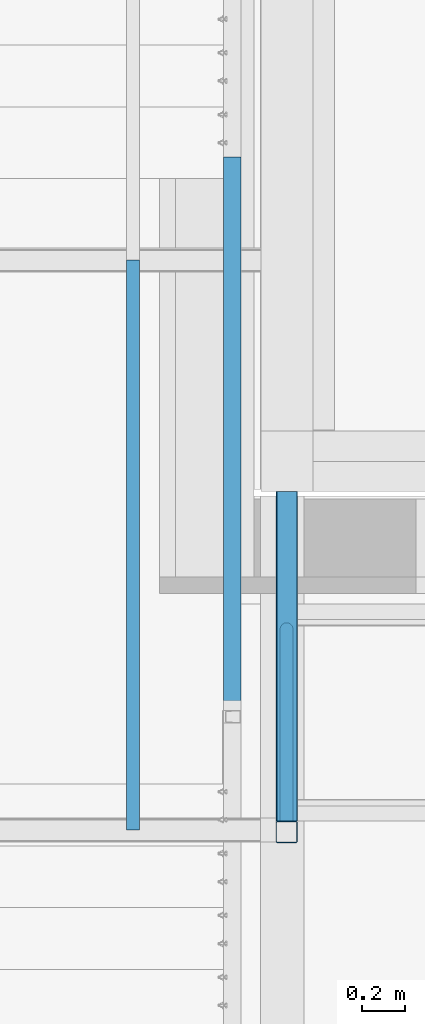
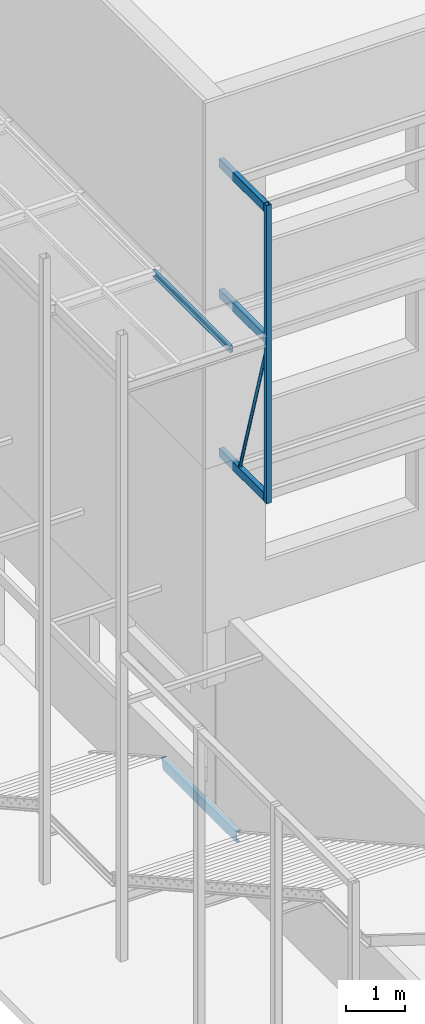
# One storey, part 20 of 78: 6 beams, 1 member, 3 elements without a shape of their own.
"""IFC2X3 building model written with IfcOpenShell, lengths in millimetres."""

from ifc_helpers import new_model, si_unit, frame, origin_with_axes, origin_2d_with_axis, place, context, subcontext, project, spatial, hollow_rectangle, hollow_circle, u_section, extrude, clip, halfspace, material, type_object, element, aggregate, save


model = new_model("IFC2X3")

# Units and contexts
model_context = context("Model", 3, precision=1e-05, world=origin_with_axes())
body_context = subcontext(model_context, "Body", "Model", "MODEL_VIEW")
ifc_project = project(units=[si_unit("LENGTHUNIT", "METRE", prefix="MILLI"), si_unit("AREAUNIT", "SQUARE_METRE"), si_unit("VOLUMEUNIT", "CUBIC_METRE"), si_unit("MASSUNIT", "GRAM", prefix="KILO"), si_unit("TIMEUNIT", "SECOND"), si_unit("PLANEANGLEUNIT", "RADIAN"), si_unit("SOLIDANGLEUNIT", "STERADIAN"), si_unit("THERMODYNAMICTEMPERATUREUNIT", "DEGREE_CELSIUS"), si_unit("LUMINOUSINTENSITYUNIT", "LUMEN")], contexts=[model_context])

# Site, building, storey
site_placement = place(None, origin_with_axes())
site = spatial("IfcSite", under=ifc_project, at=site_placement, Name="Site", CompositionType="ELEMENT")
building_placement = place(site_placement, origin_with_axes())
building = spatial("IfcBuilding", under=site, at=building_placement, Name="Undefined", CompositionType="ELEMENT")
storey_placement = place(building_placement, origin_with_axes())
storey = spatial("IfcBuildingStorey", under=building, at=storey_placement, Name="Undefined", CompositionType="ELEMENT", Elevation=0.0)

# Assembly, beam
assembly_1_placement = place(storey_placement, origin_with_axes())
assembly_1 = element("IfcElementAssembly", 1, at=assembly_1_placement, inside=storey, AssemblyPlace="NOTDEFINED", PredefinedType="RIGID_FRAME")
ifc_material_1 = material(Name="STEEL/S235JR")
beam_type_1 = type_object("IfcBeamType", Name="UPN220", PredefinedType="NOTDEFINED")
beam_1_placement = place(assembly_1_placement, frame((-30736.429999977, -8107.00405384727, 149285.040013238), z_axis=(0.0, 0.0, 1.0), x_axis=(0.0, 1.0, 0.0)))
beam_1 = element("IfcBeam", 2, at=beam_1_placement, type_object=beam_type_1, material=ifc_material_1, Name="LIMON", ObjectType="UPN220", context=body_context, shape_type="Clipping", body=[
    clip(extrude(u_section(Depth=220.0, FlangeWidth=80.0, WebThickness=9.0, FlangeThickness=12.5, FilletRadius=12.5, EdgeRadius=6.5, FlangeSlope=0.0798299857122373, at=origin_2d_with_axis()), frame((2554.05967197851, 0.0, 0.0), z_axis=(-1.0, 0.0, 0.0), x_axis=(0.0, -1.0, 0.0)), (0.0, 0.0, 1.0), 2554.06), halfspace(frame((2553.77358497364, -39.9999999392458, 109.999999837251), z_axis=(-0.967803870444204, 0.0, 0.251705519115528), x_axis=(0.0, -1.0, 0.0)), True)),
])
aggregate(assembly_1, [beam_1])

assembly_2_placement = place(storey_placement, origin_with_axes())
assembly_2 = element("IfcElementAssembly", 3, at=assembly_2_placement, inside=storey, AssemblyPlace="NOTDEFINED", PredefinedType="RIGID_FRAME")
ifc_material_2 = material(Name="STEEL/S275JR")
beam_type_2 = type_object("IfcBeamType", Name="UPN140", PredefinedType="NOTDEFINED")
beam_2_placement = place(assembly_2_placement, frame((-31192.8599999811, -6028.00000000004, 159900.039237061), z_axis=(0.0, 0.0, 1.0), x_axis=(0.0, -1.0, 0.0)))
beam_2 = element("IfcBeam", 4, at=beam_2_placement, type_object=beam_type_2, material=ifc_material_2, Name="SOLIVE", ObjectType="UPN140", context=body_context, shape_type="SweptSolid", body=[
    extrude(u_section(Depth=140.0, FlangeWidth=60.0, WebThickness=7.0, FlangeThickness=10.0, FilletRadius=10.0, EdgeRadius=5.0, FlangeSlope=0.0798299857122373, at=origin_2d_with_axis()), frame((2626.0, 0.0, 0.0), z_axis=(-1.0, 0.0, 0.0), x_axis=(0.0, -1.0, 0.0)), (0.0, 0.0, 1.0), 2626.0),
])
aggregate(assembly_2, [beam_2])

# Assembly, beams, member
assembly_3_placement = place(storey_placement, origin_with_axes())
assembly_3 = element("IfcElementAssembly", 5, at=assembly_3_placement, inside=storey, Name="CONSOLE", AssemblyPlace="NOTDEFINED", PredefinedType="RIGID_FRAME")
beam_type_3 = type_object("IfcBeamType", Name="TUBE-C-100*100*4", PredefinedType="NOTDEFINED")
beam_3_placement = place(assembly_3_placement, frame((-30485.0, -8663.0, 162680.04), z_axis=(0.0, 1.0, 0.0), x_axis=(0.0, 0.0, -1.0)))
beam_3 = element("IfcBeam", 6, at=beam_3_placement, type_object=beam_type_3, material=ifc_material_2, Name="CONSOLE", ObjectType="TUBE-C-100*100*4", context=body_context, shape_type="SweptSolid", body=[
    extrude(hollow_rectangle(XDim=100.0, YDim=100.0, WallThickness=4.0, InnerFilletRadius=4.0, OuterFilletRadius=8.0, at=origin_2d_with_axis()), frame((6190.0, 0.0, 0.0), z_axis=(-1.0, 0.0, 0.0), x_axis=(0.0, -1.0, 0.0)), (0.0, 0.0, 1.0), 6190.0),
])
beam_type_4 = type_object("IfcBeamType", Name="TUBE-R-180*100*4", PredefinedType="NOTDEFINED")
beam_4_placement = place(assembly_3_placement, frame((-30485.0, -8613.0, 162590.04), z_axis=(0.0, 0.0, 1.0), x_axis=(0.0, 1.0, 0.0)))
beam_4 = element("IfcBeam", 7, at=beam_4_placement, type_object=beam_type_4, material=ifc_material_2, Name="CONSOLE", ObjectType="TUBE-R-180*100*4", context=body_context, shape_type="Clipping", body=[
    clip(extrude(hollow_rectangle(XDim=100.0, YDim=180.0, WallThickness=4.0, InnerFilletRadius=4.0, OuterFilletRadius=8.0, at=origin_2d_with_axis()), frame((1518.0000000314, 0.0, -1.28579601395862e-18), z_axis=(-1.0, 0.0, 0.0), x_axis=(0.0, -1.0, 0.0)), (0.0, 0.0, 1.0), 1518.0), halfspace(frame((0.0, 0.0, 1090.0), z_axis=(-1.0, 0.0, 0.0), x_axis=(0.0, -1.0, 0.0)), False)),
])
beam_5_placement = place(assembly_3_placement, frame((-30485.0, -8613.0, 156580.04), z_axis=(0.0, 0.0, 1.0), x_axis=(0.0, 1.0, 0.0)))
beam_5 = element("IfcBeam", 8, at=beam_5_placement, type_object=beam_type_4, material=ifc_material_2, Name="CONSOLE", ObjectType="TUBE-R-180*100*4", context=body_context, shape_type="Clipping", body=[
    clip(extrude(hollow_rectangle(XDim=100.0, YDim=180.0, WallThickness=4.0, InnerFilletRadius=4.0, OuterFilletRadius=8.0, at=origin_2d_with_axis()), frame((1518.0000000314, 0.0, -1.28579601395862e-18), z_axis=(-1.0, 0.0, 0.0), x_axis=(0.0, -1.0, 0.0)), (0.0, 0.0, 1.0), 1518.0), halfspace(frame((0.0, 0.0, 1090.0), z_axis=(-1.0, 0.0, 0.0), x_axis=(0.0, -1.0, 0.0)), False)),
])
beam_6_placement = place(assembly_3_placement, frame((-30485.0, -8613.0, 159880.04), z_axis=(0.0, 0.0, 1.0), x_axis=(0.0, 1.0, 0.0)))
beam_6 = element("IfcBeam", 9, at=beam_6_placement, type_object=beam_type_4, material=ifc_material_2, Name="CONSOLE", ObjectType="TUBE-R-180*100*4", context=body_context, shape_type="Clipping", body=[
    clip(extrude(hollow_rectangle(XDim=100.0, YDim=180.0, WallThickness=4.0, InnerFilletRadius=4.0, OuterFilletRadius=8.0, at=origin_2d_with_axis()), frame((1518.0000000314, 0.0, -1.28579601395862e-18), z_axis=(-1.0, 0.0, 0.0), x_axis=(0.0, -1.0, 0.0)), (0.0, 0.0, 1.0), 1518.0), halfspace(frame((0.0, 0.0, 1090.0), z_axis=(-1.0, 0.0, 0.0), x_axis=(0.0, -1.0, 0.0)), False)),
])
member_type = type_object("IfcMemberType", Name="TUBE-60.3*4", PredefinedType="NOTDEFINED")
member_placement = place(assembly_3_placement, frame((-30485.0, -8703.00000000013, 159880.039999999), z_axis=(0.0, -0.957024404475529, -0.290007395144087), x_axis=(0.0, 0.290007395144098, -0.957024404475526)))
member = element("IfcMember", 10, at=member_placement, type_object=member_type, material=ifc_material_2, Name="STAB", ObjectType="TUBE-60.3*4", context=body_context, shape_type="Clipping", body=[
    clip(clip(extrude(hollow_circle(Radius=30.14999962, WallThickness=4.0, at=origin_2d_with_axis()), frame((3463.86411679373, 0.0, 0.0), z_axis=(-1.0, 0.0, 0.0), x_axis=(0.0, -1.0, 0.0)), (0.0, 0.0, 1.0), 3463.86), halfspace(frame((2808.14160878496, 0.0, 1801.81594648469), z_axis=(0.957024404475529, 0.0, 0.290007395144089), x_axis=(0.0, 1.0, 0.0)), False)), halfspace(frame((-939.291695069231, 0.0, -378.6753358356), z_axis=(-0.290007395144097, 0.0, 0.957024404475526), x_axis=(0.0, 1.0, 0.0)), False)),
])
aggregate(assembly_3, [member, beam_3, beam_4, beam_5, beam_6])

save(model, "model.ifc")
